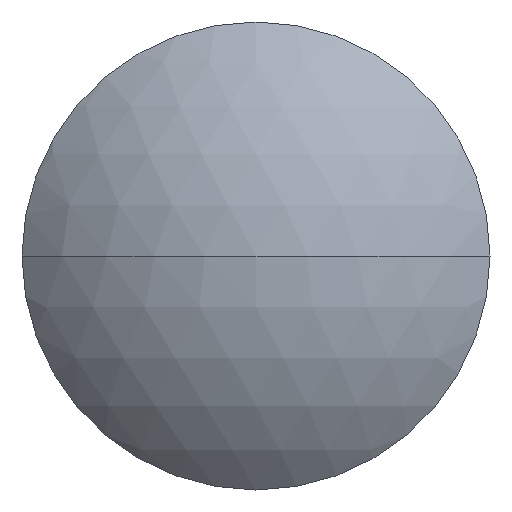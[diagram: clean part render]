
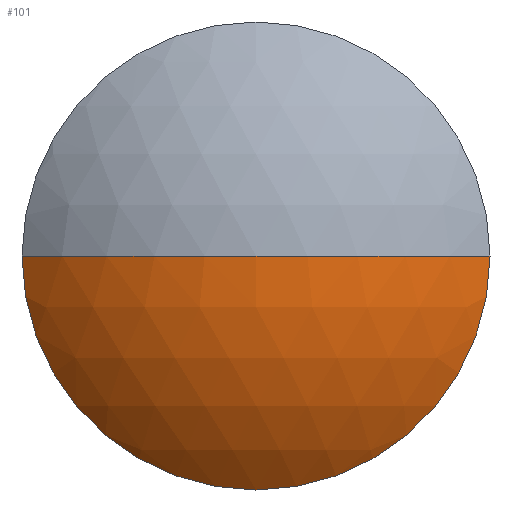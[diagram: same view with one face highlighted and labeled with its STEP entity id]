
A CAD part, left-side view. The second image highlights one B-rep face of the part: STEP entity #101.
In plain terms, the highlighted spherical face has radius 43.876 mm.
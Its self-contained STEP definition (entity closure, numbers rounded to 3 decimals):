
#8 = DIRECTION ( 'NONE',  ( 0., 0., 1. ) ) ;
#26 = CARTESIAN_POINT ( 'NONE',  ( -3., 0., 0. ) ) ;
#30 = AXIS2_PLACEMENT_3D ( 'NONE', #330, #197, #42 ) ;
#40 = ORIENTED_EDGE ( 'NONE', *, *, #274, .T. ) ;
#42 = DIRECTION ( 'NONE',  ( 0., 1., 0. ) ) ;
#47 = AXIS2_PLACEMENT_3D ( 'NONE', #342, #125, #127 ) ;
#49 = DIRECTION ( 'NONE',  ( 1., 0., 0. ) ) ;
#66 = VERTEX_POINT ( 'NONE', #267 ) ;
#77 = EDGE_CURVE ( 'NONE', #165, #331, #236, .T. ) ;
#85 = AXIS2_PLACEMENT_3D ( 'NONE', #103, #347, #49 ) ;
#95 = CARTESIAN_POINT ( 'NONE',  ( -15., 0., 0. ) ) ;
#96 = EDGE_CURVE ( 'NONE', #165, #66, #280, .T. ) ;
#101 = ADVANCED_FACE ( 'NONE', ( #227 ), #281, .T. ) ;
#103 = CARTESIAN_POINT ( 'NONE',  ( 28.876, 0., 0. ) ) ;
#108 = VERTEX_POINT ( 'NONE', #332 ) ;
#115 = DIRECTION ( 'NONE',  ( -1., 0., 0. ) ) ;
#125 = DIRECTION ( 'NONE',  ( 0., 0., -1. ) ) ;
#127 = DIRECTION ( 'NONE',  ( 0., 1., 0. ) ) ;
#131 = DIRECTION ( 'NONE',  ( 0., 0., 1. ) ) ;
#145 = CARTESIAN_POINT ( 'NONE',  ( -3., 30.15, 0. ) ) ;
#155 = EDGE_CURVE ( 'NONE', #66, #108, #316, .T. ) ;
#164 = AXIS2_PLACEMENT_3D ( 'NONE', #302, #115, #8 ) ;
#165 = VERTEX_POINT ( 'NONE', #145 ) ;
#169 = ORIENTED_EDGE ( 'NONE', *, *, #155, .T. ) ;
#171 = ORIENTED_EDGE ( 'NONE', *, *, #77, .F. ) ;
#197 = DIRECTION ( 'NONE',  ( 0., 0., -1. ) ) ;
#217 = AXIS2_PLACEMENT_3D ( 'NONE', #26, #243, #131 ) ;
#227 = FACE_OUTER_BOUND ( 'NONE', #304, .T. ) ;
#236 = CIRCLE ( 'NONE', #85, 43.876 ) ;
#243 = DIRECTION ( 'NONE',  ( -1., 0., 0. ) ) ;
#247 = CIRCLE ( 'NONE', #47, 43.876 ) ;
#267 = CARTESIAN_POINT ( 'NONE',  ( -3., 0., -30.15 ) ) ;
#274 = EDGE_CURVE ( 'NONE', #108, #331, #247, .T. ) ;
#280 = CIRCLE ( 'NONE', #217, 30.15 ) ;
#281 = SPHERICAL_SURFACE ( 'NONE', #30, 43.876 ) ;
#293 = ORIENTED_EDGE ( 'NONE', *, *, #96, .T. ) ;
#302 = CARTESIAN_POINT ( 'NONE',  ( -3., 0., 0. ) ) ;
#304 = EDGE_LOOP ( 'NONE', ( #293, #169, #40, #171 ) ) ;
#316 = CIRCLE ( 'NONE', #164, 30.15 ) ;
#330 = CARTESIAN_POINT ( 'NONE',  ( 28.876, 0., 0. ) ) ;
#331 = VERTEX_POINT ( 'NONE', #95 ) ;
#332 = CARTESIAN_POINT ( 'NONE',  ( -3., -30.15, 0. ) ) ;
#342 = CARTESIAN_POINT ( 'NONE',  ( 28.876, 0., 0. ) ) ;
#347 = DIRECTION ( 'NONE',  ( 0., 0., 1. ) ) ;
